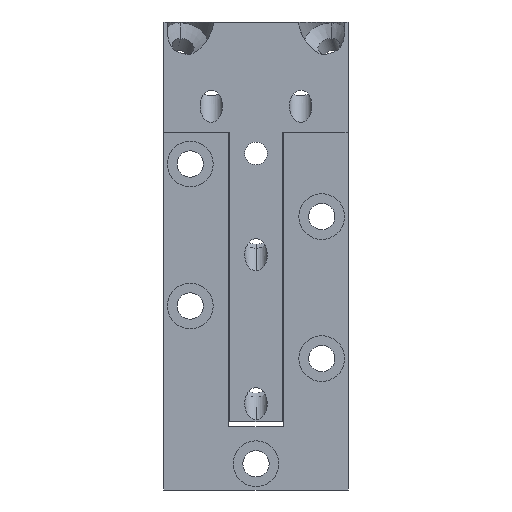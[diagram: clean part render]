
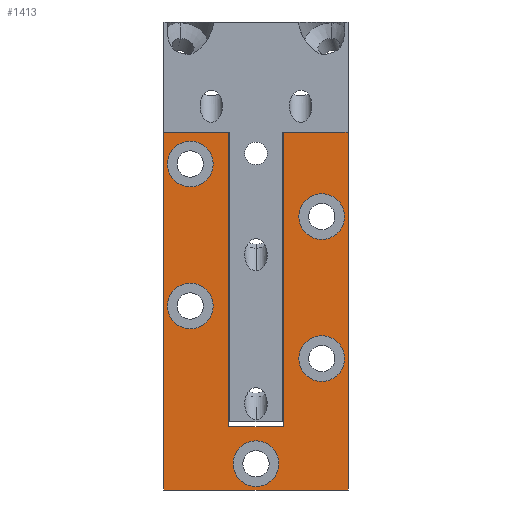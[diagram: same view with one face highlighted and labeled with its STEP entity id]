
A CAD part, front view. The second image highlights one B-rep face of the part: STEP entity #1413.
In plain terms, the highlighted planar face has unit normal (0, -1, 0).
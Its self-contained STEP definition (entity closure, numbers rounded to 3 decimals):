
#1413=ADVANCED_FACE('',(#2540,#2541,#2542,#2543,#2544,#2545),#2546,.T.);
#2540=FACE_BOUND('',#4236,.T.);
#2541=FACE_BOUND('',#4237,.T.);
#2542=FACE_BOUND('',#4238,.T.);
#2543=FACE_BOUND('',#4239,.T.);
#2544=FACE_BOUND('',#4240,.T.);
#2545=FACE_OUTER_BOUND('',#4241,.T.);
#2546=PLANE('',#4242);
#4236=EDGE_LOOP('',(#5153,#5154));
#4237=EDGE_LOOP('',(#5155,#5156));
#4238=EDGE_LOOP('',(#5157,#5158));
#4239=EDGE_LOOP('',(#5159,#5160));
#4240=EDGE_LOOP('',(#5161,#5162));
#4241=EDGE_LOOP('',(#5163,#5164,#5165,#5166,#5167,#5168,#5169,#5170));
#4242=AXIS2_PLACEMENT_3D('',#5171,#5172,#5173);
#5153=ORIENTED_EDGE('',*,*,#7345,.T.);
#5154=ORIENTED_EDGE('',*,*,#7347,.T.);
#5155=ORIENTED_EDGE('',*,*,#7330,.T.);
#5156=ORIENTED_EDGE('',*,*,#7348,.T.);
#5157=ORIENTED_EDGE('',*,*,#7325,.T.);
#5158=ORIENTED_EDGE('',*,*,#7349,.T.);
#5159=ORIENTED_EDGE('',*,*,#7315,.T.);
#5160=ORIENTED_EDGE('',*,*,#7350,.T.);
#5161=ORIENTED_EDGE('',*,*,#7351,.T.);
#5162=ORIENTED_EDGE('',*,*,#7305,.T.);
#5163=ORIENTED_EDGE('',*,*,#7352,.T.);
#5164=ORIENTED_EDGE('',*,*,#7353,.F.);
#5165=ORIENTED_EDGE('',*,*,#7354,.T.);
#5166=ORIENTED_EDGE('',*,*,#7355,.T.);
#5167=ORIENTED_EDGE('',*,*,#7356,.T.);
#5168=ORIENTED_EDGE('',*,*,#7357,.F.);
#5169=ORIENTED_EDGE('',*,*,#7358,.F.);
#5170=ORIENTED_EDGE('',*,*,#7359,.T.);
#5171=CARTESIAN_POINT('',(-17.5,0.,-89.0));
#5172=DIRECTION('',(0.,-1.0,0.));
#5173=DIRECTION('',(1.0,0.,0.));
#7305=EDGE_CURVE('',#8446,#8450,#8452,.T.);
#7315=EDGE_CURVE('',#8464,#8468,#8470,.T.);
#7325=EDGE_CURVE('',#8482,#8486,#8488,.T.);
#7330=EDGE_CURVE('',#8491,#8495,#8497,.T.);
#7345=EDGE_CURVE('',#8518,#8522,#8524,.T.);
#7347=EDGE_CURVE('',#8522,#8518,#8526,.T.);
#7348=EDGE_CURVE('',#8495,#8491,#8527,.T.);
#7349=EDGE_CURVE('',#8486,#8482,#8528,.T.);
#7350=EDGE_CURVE('',#8468,#8464,#8529,.T.);
#7351=EDGE_CURVE('',#8450,#8446,#8530,.T.);
#7352=EDGE_CURVE('',#8531,#8532,#8533,.T.);
#7353=EDGE_CURVE('',#8534,#8532,#8535,.T.);
#7354=EDGE_CURVE('',#8534,#8536,#8537,.T.);
#7355=EDGE_CURVE('',#8536,#8538,#8539,.T.);
#7356=EDGE_CURVE('',#8538,#8540,#8541,.T.);
#7357=EDGE_CURVE('',#8542,#8540,#8543,.T.);
#7358=EDGE_CURVE('',#8544,#8542,#8545,.T.);
#7359=EDGE_CURVE('',#8544,#8531,#8546,.T.);
#8446=VERTEX_POINT('',#9189);
#8450=VERTEX_POINT('',#9194);
#8452=CIRCLE('',#9197,4.35);
#8464=VERTEX_POINT('',#9211);
#8468=VERTEX_POINT('',#9216);
#8470=CIRCLE('',#9219,4.35);
#8482=VERTEX_POINT('',#9233);
#8486=VERTEX_POINT('',#9238);
#8488=CIRCLE('',#9241,4.35);
#8491=VERTEX_POINT('',#9244);
#8495=VERTEX_POINT('',#9249);
#8497=CIRCLE('',#9252,4.35);
#8518=VERTEX_POINT('',#9277);
#8522=VERTEX_POINT('',#9282);
#8524=CIRCLE('',#9285,4.35);
#8526=CIRCLE('',#9287,4.35);
#8527=CIRCLE('',#9288,4.35);
#8528=CIRCLE('',#9289,4.35);
#8529=CIRCLE('',#9290,4.35);
#8530=CIRCLE('',#9291,4.35);
#8531=VERTEX_POINT('',#9292);
#8532=VERTEX_POINT('',#9293);
#8533=LINE('',#9294,#9295);
#8534=VERTEX_POINT('',#9296);
#8535=LINE('',#9297,#9298);
#8536=VERTEX_POINT('',#9299);
#8537=LINE('',#9300,#9301);
#8538=VERTEX_POINT('',#9302);
#8539=LINE('',#9303,#9304);
#8540=VERTEX_POINT('',#9305);
#8541=LINE('',#9306,#9307);
#8542=VERTEX_POINT('',#9308);
#8543=LINE('',#9309,#9310);
#8544=VERTEX_POINT('',#9311);
#8545=LINE('',#9312,#9313);
#8546=LINE('',#9314,#9315);
#9189=CARTESIAN_POINT('',(-4.35,0.,-84.0));
#9194=CARTESIAN_POINT('',(4.35,0.,-84.0));
#9197=AXIS2_PLACEMENT_3D('',#10242,#10243,#10244);
#9211=CARTESIAN_POINT('',(-16.85,0.,-27.0));
#9216=CARTESIAN_POINT('',(-8.15,0.,-27.0));
#9219=AXIS2_PLACEMENT_3D('',#10258,#10259,#10260);
#9233=CARTESIAN_POINT('',(8.15,0.,-37.0));
#9238=CARTESIAN_POINT('',(16.85,0.,-37.0));
#9241=AXIS2_PLACEMENT_3D('',#10274,#10275,#10276);
#9244=CARTESIAN_POINT('',(-16.85,0.,-54.0));
#9249=CARTESIAN_POINT('',(-8.15,0.,-54.0));
#9252=AXIS2_PLACEMENT_3D('',#10282,#10283,#10284);
#9277=CARTESIAN_POINT('',(8.15,0.,-64.0));
#9282=CARTESIAN_POINT('',(16.85,0.,-64.0));
#9285=AXIS2_PLACEMENT_3D('',#10306,#10307,#10308);
#9287=AXIS2_PLACEMENT_3D('',#10309,#10310,#10311);
#9288=AXIS2_PLACEMENT_3D('',#10312,#10313,#10314);
#9289=AXIS2_PLACEMENT_3D('',#10315,#10316,#10317);
#9290=AXIS2_PLACEMENT_3D('',#10318,#10319,#10320);
#9291=AXIS2_PLACEMENT_3D('',#10321,#10322,#10323);
#9292=CARTESIAN_POINT('',(17.5,0.,-89.0));
#9293=CARTESIAN_POINT('',(17.5,0.,-21.0));
#9294=CARTESIAN_POINT('',(17.5,0.,-89.0));
#9295=VECTOR('',#10324,10.0);
#9296=CARTESIAN_POINT('',(5.2,0.,-21.0));
#9297=CARTESIAN_POINT('',(-17.5,0.,-21.0));
#9298=VECTOR('',#10325,10.0);
#9299=CARTESIAN_POINT('',(5.2,0.,-77.0));
#9300=CARTESIAN_POINT('',(5.2,0.,-55.0));
#9301=VECTOR('',#10326,10.0);
#9302=CARTESIAN_POINT('',(-5.2,0.0,-77.0));
#9303=CARTESIAN_POINT('',(-8.75,0.0,-77.0));
#9304=VECTOR('',#10327,10.0);
#9305=CARTESIAN_POINT('',(-5.2,0.0,-21.0));
#9306=CARTESIAN_POINT('',(-5.2,0.0,-55.0));
#9307=VECTOR('',#10328,10.0);
#9308=CARTESIAN_POINT('',(-17.5,0.,-21.0));
#9309=CARTESIAN_POINT('',(-17.5,0.,-21.0));
#9310=VECTOR('',#10329,10.0);
#9311=CARTESIAN_POINT('',(-17.5,0.,-89.0));
#9312=CARTESIAN_POINT('',(-17.5,0.,-89.0));
#9313=VECTOR('',#10330,10.0);
#9314=CARTESIAN_POINT('',(-17.5,0.,-89.0));
#9315=VECTOR('',#10331,10.0);
#10242=CARTESIAN_POINT('',(0.,0.0,-84.0));
#10243=DIRECTION('',(0.,1.0,0.));
#10244=DIRECTION('',(-1.0,0.,0.));
#10258=CARTESIAN_POINT('',(-12.5,0.,-27.0));
#10259=DIRECTION('',(0.,1.0,0.));
#10260=DIRECTION('',(-1.0,0.,0.));
#10274=CARTESIAN_POINT('',(12.5,0.,-37.0));
#10275=DIRECTION('',(0.,1.0,0.));
#10276=DIRECTION('',(-1.0,0.,0.));
#10282=CARTESIAN_POINT('',(-12.5,0.,-54.0));
#10283=DIRECTION('',(0.,1.0,0.));
#10284=DIRECTION('',(-1.0,0.,0.));
#10306=CARTESIAN_POINT('',(12.5,0.,-64.0));
#10307=DIRECTION('',(0.,1.0,0.));
#10308=DIRECTION('',(-1.0,0.,0.));
#10309=CARTESIAN_POINT('',(12.5,0.,-64.0));
#10310=DIRECTION('',(0.,1.0,0.));
#10311=DIRECTION('',(-1.0,0.,0.));
#10312=CARTESIAN_POINT('',(-12.5,0.,-54.0));
#10313=DIRECTION('',(0.,1.0,0.));
#10314=DIRECTION('',(-1.0,0.,0.));
#10315=CARTESIAN_POINT('',(12.5,0.,-37.0));
#10316=DIRECTION('',(0.,1.0,0.));
#10317=DIRECTION('',(-1.0,0.,0.));
#10318=CARTESIAN_POINT('',(-12.5,0.,-27.0));
#10319=DIRECTION('',(0.,1.0,0.));
#10320=DIRECTION('',(-1.0,0.,0.));
#10321=CARTESIAN_POINT('',(0.,0.0,-84.0));
#10322=DIRECTION('',(0.,1.0,0.));
#10323=DIRECTION('',(-1.0,0.,0.));
#10324=DIRECTION('',(0.,0.,1.0));
#10325=DIRECTION('',(1.0,0.,0.));
#10326=DIRECTION('',(0.,0.,-1.0));
#10327=DIRECTION('',(-1.0,0.,0.));
#10328=DIRECTION('',(0.,0.,1.0));
#10329=DIRECTION('',(1.0,0.,0.));
#10330=DIRECTION('',(0.,0.,1.0));
#10331=DIRECTION('',(1.0,0.,0.));
